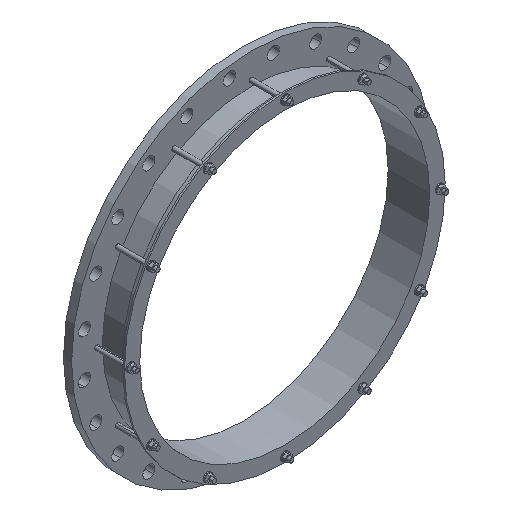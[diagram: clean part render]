
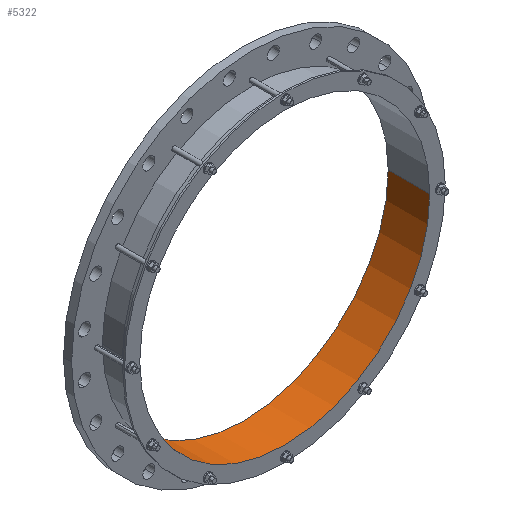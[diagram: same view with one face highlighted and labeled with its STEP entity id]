
A CAD part, isometric view. The second image highlights one B-rep face of the part: STEP entity #5322.
In plain terms, the highlighted cylindrical face has radius 409.5 mm (diameter 819 mm), a partial arc.
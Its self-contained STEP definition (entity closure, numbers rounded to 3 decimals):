
#7=CARTESIAN_POINT('',(0.,23.,0.));
#8=DIRECTION('',(0.,1.,0.));
#9=DIRECTION('',(1.,0.,0.));
#10=AXIS2_PLACEMENT_3D('',#7,#8,#9);
#1440=CARTESIAN_POINT('',(0.,-94.452,0.));
#1441=DIRECTION('',(0.,1.,0.));
#1442=DIRECTION('',(1.,0.,0.));
#1443=AXIS2_PLACEMENT_3D('',#1440,#1441,#1442);
#1445=DIRECTION('',(0.,1.,0.));
#1446=VECTOR('',#1445,117.452);
#1447=CARTESIAN_POINT('',(409.5,-94.452,0.));
#1448=LINE('',#1447,#1446);
#1449=DIRECTION('',(0.,1.,0.));
#1450=VECTOR('',#1449,117.452);
#1451=CARTESIAN_POINT('',(-409.5,-94.452,0.));
#1452=LINE('',#1451,#1450);
#3594=CARTESIAN_POINT('',(409.5,-94.452,0.));
#3595=CARTESIAN_POINT('',(409.5,23.,0.));
#3596=VERTEX_POINT('',#3594);
#3597=VERTEX_POINT('',#3595);
#3606=CARTESIAN_POINT('',(-409.5,-94.452,0.));
#3607=CARTESIAN_POINT('',(-409.5,23.,0.));
#3608=VERTEX_POINT('',#3606);
#3609=VERTEX_POINT('',#3607);
#5309=CARTESIAN_POINT('',(0.,-100.325,0.));
#5310=DIRECTION('',(0.,1.,0.));
#5311=DIRECTION('',(-1.,0.,0.));
#5312=AXIS2_PLACEMENT_3D('',#5309,#5310,#5311);
#5313=CYLINDRICAL_SURFACE('',#5312,409.5);
#5315=ORIENTED_EDGE('',*,*,#5314,.F.);
#5316=ORIENTED_EDGE('',*,*,#5232,.T.);
#5318=ORIENTED_EDGE('',*,*,#5317,.T.);
#5319=ORIENTED_EDGE('',*,*,#4435,.F.);
#5320=EDGE_LOOP('',(#5315,#5316,#5318,#5319));
#5321=FACE_OUTER_BOUND('',#5320,.F.);
#5322=ADVANCED_FACE('',(#5321),#5313,.F.);
#11=CIRCLE('',#10,409.5);
#1444=CIRCLE('',#1443,409.5);
#4435=EDGE_CURVE('',#3597,#3609,#11,.T.);
#5232=EDGE_CURVE('',#3596,#3608,#1444,.T.);
#5314=EDGE_CURVE('',#3596,#3597,#1448,.T.);
#5317=EDGE_CURVE('',#3608,#3609,#1452,.T.);
